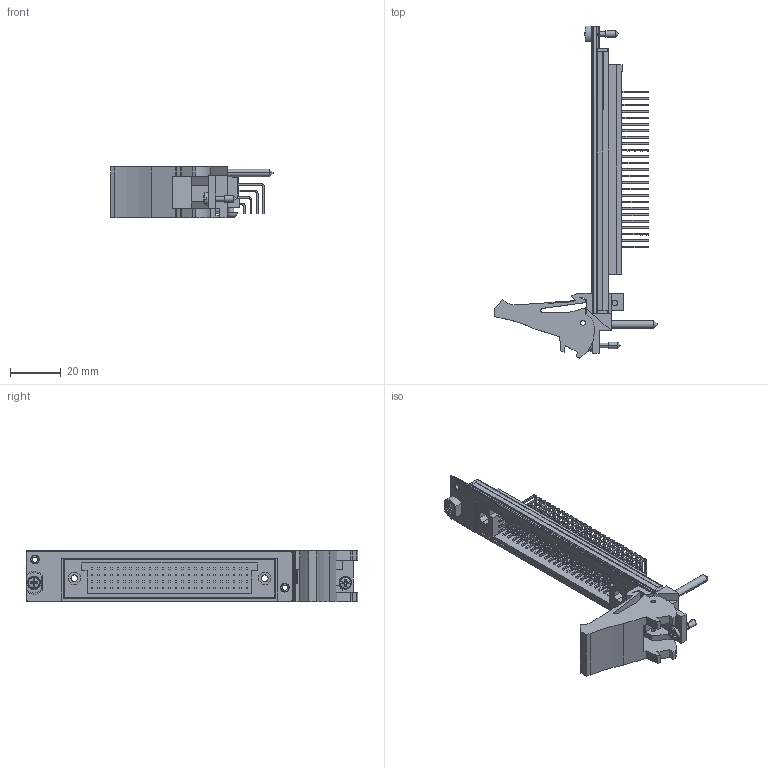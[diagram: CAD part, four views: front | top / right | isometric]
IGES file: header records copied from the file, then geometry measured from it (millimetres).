
Start section:  PTC IGES file: cu_pxi-2527.igs
Global section: file name: cu_pxi-2527.igs; native system: Pro/ENGINEER by Parametric Technology Corporation; preprocessor: 2006080; author: jjorden; organization: Unknown; date: 090831.130624; units: inch
Bounding box: 63.73 x 130.5 x 20.32 mm (x, y, z)
Surface area: 24216.1 mm2 (no closed solid volume)
Topology: 0 solids, 0 shells, 1834 faces, 9456 edges, 9448 vertices
Faces by surface type: bspline 1493, revolution 341
